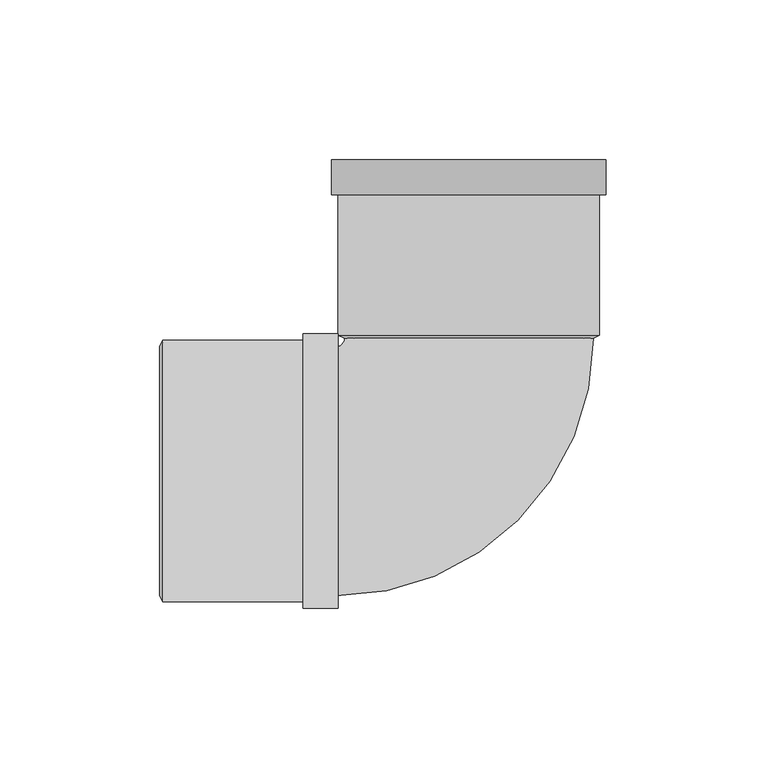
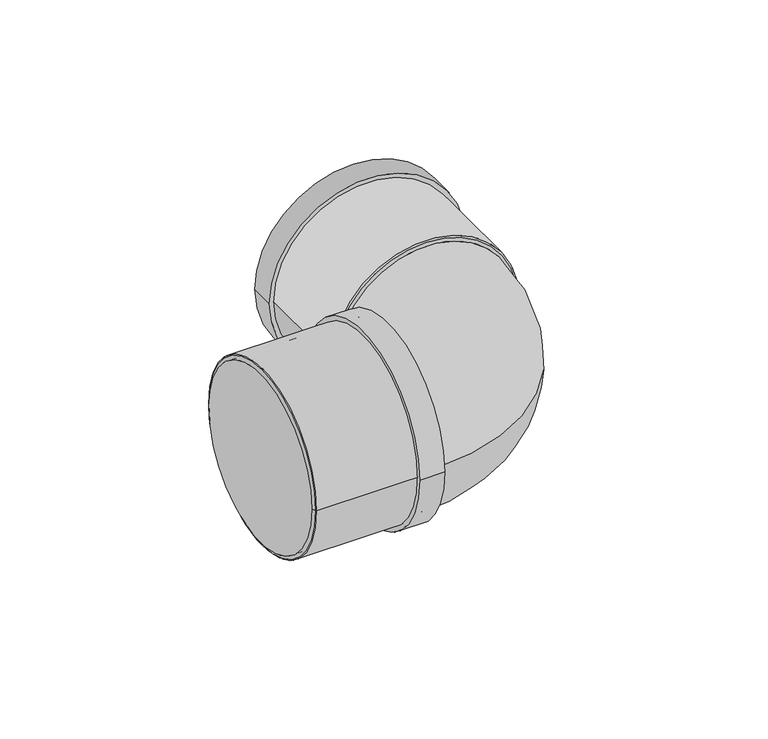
"""IFC4 building model written with IfcOpenShell, lengths in millimetres: pipe fitting geometry, Superdrain SK Bend_Composite 2x45 : Superdrain SK Bend_Composite 2x45."""

from ifc_helpers import new_model, si_unit, point, frame, origin, origin_2d, place, context, project, spatial, polyline, circle_curve, ellipse_curve, trimmed, segment, composite_curve, outline, extrude, source, transform, mapped, element, save
from ifc_brep_helpers import plane_surface, revolved_surface, advanced_brep


def pipe_fitting_26640547(model_context):
    return source(origin(), model_context, "Body", "SolidModel", [
        extrude(outline(composite_curve([segment(trimmed(circle_curve(origin_2d(), 40.95), [point((40.95, 0.0))], [point((-40.95, 0.0))], False, "CARTESIAN"), True, "CONTINUOUS"), segment(trimmed(circle_curve(origin_2d(), 40.95), [point((-40.95, 0.0))], [point((40.95, 0.0))], False, "CARTESIAN"), True, "CONTINUOUS")], self_intersect=False), holes=[composite_curve([segment(trimmed(circle_curve(origin_2d(), 39.0), [point((39.0, 0.0))], [point((-39.0, 0.0))], True, "CARTESIAN"), True, "CONTINUOUS"), segment(trimmed(circle_curve(origin_2d(), 39.0), [point((-39.0, 0.0))], [point((39.0, 0.0))], True, "CARTESIAN"), True, "CONTINUOUS")], self_intersect=False)]), frame((-96.0, 0.0, 0.0), z_axis=(1.0, 0.0, 0.0), x_axis=(0.0, 1.0, 0.0)), (0.0, 0.0, 1.0), 55.0),
        extrude(outline(composite_curve([segment(trimmed(circle_curve(origin_2d(), 42.9975), [point((42.9975, 0.0))], [point((-42.9975, 0.0))], False, "CARTESIAN"), True, "CONTINUOUS"), segment(trimmed(circle_curve(origin_2d(), 42.9975), [point((-42.9975, 0.0))], [point((42.9975, 0.0))], False, "CARTESIAN"), True, "CONTINUOUS")], self_intersect=False), holes=[composite_curve([segment(trimmed(circle_curve(origin_2d(), 39.0), [point((39.0, 0.0))], [point((-39.0, 0.0))], True, "CARTESIAN"), True, "CONTINUOUS"), segment(trimmed(circle_curve(origin_2d(), 39.0), [point((-39.0, 0.0))], [point((39.0, 0.0))], True, "CARTESIAN"), True, "CONTINUOUS")], self_intersect=False)]), frame((-52.0, 0.0, 0.0), z_axis=(1.0, 0.0, 0.0), x_axis=(0.0, 1.0, 0.0)), (0.0, 0.0, 1.0), 11.0),
        advanced_brep(
        [(-97.0, 39.0, 0.0), (-97.0, -39.0, 0.0), (-96.0, 40.95, 0.0), (-96.0, -40.95, 0.0)],
        [
            (0, 1, circle_curve(frame((-97.0, 0.0, 0.0), z_axis=(-1.0, 0.0, 0.0), x_axis=(0.0, 1.0000000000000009, 0.0)), 39.0)),
            (1, 0, circle_curve(frame((-97.0, 0.0, 0.0), z_axis=(-1.0, 0.0, 0.0), x_axis=(0.0, -1.0000000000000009, 0.0)), 39.0)),
            (2, 3, circle_curve(frame((-96.0, 0.0, 0.0), z_axis=(1.0, 0.0, 0.0), x_axis=(0.0, -1.0000000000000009, 0.0)), 40.95)),
            (3, 2, circle_curve(frame((-96.0, 0.0, 0.0), z_axis=(1.0, 0.0, 0.0), x_axis=(0.0, 1.0000000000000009, 0.0)), 40.95)),
            (3, 1),
            (0, 2),
        ],
        [
            plane_surface(frame((-97.0, 0.0, 0.0), z_axis=(-1.0, 0.0, 0.0), x_axis=(0.0, 0.0, -1.0))),
            plane_surface(frame((-96.0, 0.0, 0.0), z_axis=(1.0, 0.0, 0.0), x_axis=(0.0, 0.0, -1.0))),
            revolved_surface(polyline([(-97.0, 38.99999999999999, 0.0), (-96.0, 40.95, 0.0)]), (-117.0, 0.0, 0.0), (1.0000000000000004, 0.0, 0.0)),
            revolved_surface(polyline([(-97.0, -38.99999999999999, 0.0), (-96.0, -40.95, 0.0)]), (-117.0, 0.0, 0.0), (1.0000000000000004, 0.0, 0.0)),
        ],
        [
            (0, [[1, 2]]),
            (1, [[3, 4]]),
            (2, [[-4, 5, -1, 6]]),
            (3, [[-3, -6, -2, -5]]),
        ],
    ),
        advanced_brep(
        [(39.0, 41.6, 0.0), (-39.0, 41.6, 0.0), (-41.6, -39.0, 0.0), (-41.6, 39.0, 0.0)],
        [
            (0, 1, circle_curve(frame((0.0, 41.6, 0.0), z_axis=(0.0, 1.0, 0.0), x_axis=(-1.0, 0.0, 0.0)), 39.0)),
            (1, 0, circle_curve(frame((0.0, 41.6, 0.0), z_axis=(0.0, 1.0, 0.0), x_axis=(-1.0, 0.0, 0.0)), 39.0)),
            (2, 3, circle_curve(frame((-41.6, 0.0, 0.0), z_axis=(-1.0, 0.0, 0.0), x_axis=(0.0, 1.0, 0.0)), 39.0)),
            (3, 2, circle_curve(frame((-41.6, 0.0, 0.0), z_axis=(-1.0, 0.0, 0.0), x_axis=(0.0, 1.0, 0.0)), 39.0)),
            (3, 1, circle_curve(frame((-41.6, 41.6, 0.0), z_axis=(0.0, 0.0, 1.0), x_axis=(1.0, 0.0, 0.0)), 2.6)),
            (0, 2, circle_curve(frame((-41.6, 41.6, 0.0), z_axis=(0.0, 0.0, -1.0), x_axis=(1.0, 0.0, 0.0)), 80.6)),
        ],
        [
            plane_surface(frame((0.0, 41.6, 0.0), z_axis=(0.0, 1.0, 0.0), x_axis=(0.0, 0.0, -1.0))),
            plane_surface(frame((-41.6, 0.0, 0.0), z_axis=(-1.0, 0.0, 0.0), x_axis=(0.0, 0.0, -1.0))),
            revolved_surface(trimmed(ellipse_curve(frame((0.0, 41.6, 0.0), z_axis=(0.0, -1.0, 0.0), x_axis=(-1.0, 0.0, 0.0)), 39.0, 39.0), [point((-39.0, 41.6, 0.0))], [point((39.0, 41.6, 0.0))], True, "CARTESIAN"), (-41.6, 41.6, 0.0), (0.0, 0.0, 1.0)),
            revolved_surface(trimmed(ellipse_curve(frame((0.0, 41.6, 0.0), z_axis=(0.0, -1.0, 0.0), x_axis=(-1.0, 0.0, 0.0)), 39.0, 39.0), [point((39.0, 41.6, 0.0))], [point((-39.0, 41.6, 0.0))], True, "CARTESIAN"), (-41.6, 41.6, 0.0), (0.0, 0.0, 1.0)),
        ],
        [
            (0, [[1, 2]]),
            (1, [[3, 4]]),
            (2, [[-4, 5, -1, 6]]),
            (3, [[-3, -6, -2, -5]]),
        ],
    ),
        extrude(outline(composite_curve([segment(trimmed(circle_curve(origin_2d(), 40.95), [point((0.0, 40.95))], [point((0.0, -40.95))], False, "CARTESIAN"), True, "CONTINUOUS"), segment(trimmed(circle_curve(origin_2d(), 40.95), [point((0.0, -40.95))], [point((0.0, 40.95))], False, "CARTESIAN"), True, "CONTINUOUS")], self_intersect=False), holes=[composite_curve([segment(trimmed(circle_curve(origin_2d(), 39.0), [point((0.0, 39.0))], [point((0.0, -39.0))], True, "CARTESIAN"), True, "CONTINUOUS"), segment(trimmed(circle_curve(origin_2d(), 39.0), [point((0.0, -39.0))], [point((0.0, 39.0))], True, "CARTESIAN"), True, "CONTINUOUS")], self_intersect=False)]), frame((0.0, 42.6, 0.0), z_axis=(0.0, 1.0, 0.0), x_axis=(0.0, 0.0, 1.0)), (0.0, 0.0, 1.0), 55.0),
        extrude(outline(composite_curve([segment(trimmed(circle_curve(origin_2d(), 42.9975), [point((0.0, -42.9975))], [point((0.0, 42.9975))], False, "CARTESIAN"), True, "CONTINUOUS"), segment(trimmed(circle_curve(origin_2d(), 42.9975), [point((0.0, 42.9975))], [point((0.0, -42.9975))], False, "CARTESIAN"), True, "CONTINUOUS")], self_intersect=False), holes=[composite_curve([segment(trimmed(circle_curve(origin_2d(), 39.0), [point((0.0, -39.0))], [point((0.0, 39.0))], True, "CARTESIAN"), True, "CONTINUOUS"), segment(trimmed(circle_curve(origin_2d(), 39.0), [point((0.0, 39.0))], [point((0.0, -39.0))], True, "CARTESIAN"), True, "CONTINUOUS")], self_intersect=False)]), frame((0.0, 86.6, 0.0), z_axis=(0.0, 1.0, 0.0), x_axis=(0.0, 0.0, 1.0)), (0.0, 0.0, 1.0), 11.0),
        advanced_brep(
        [(40.95, 42.6, 0.0), (-40.95, 42.6, 0.0), (39.0, 41.6, 0.0), (-39.0, 41.6, 0.0)],
        [
            (0, 1, circle_curve(frame((0.0, 42.6, 0.0), z_axis=(0.0, 1.0, 0.0), x_axis=(1.0, 0.0, 0.0)), 40.95)),
            (1, 0, circle_curve(frame((0.0, 42.6, 0.0), z_axis=(0.0, 1.0, 0.0), x_axis=(-1.0, 0.0, 0.0)), 40.95)),
            (2, 3, circle_curve(frame((0.0, 41.6, 0.0), z_axis=(0.0, -1.0, 0.0), x_axis=(-1.0, 0.0, 0.0)), 39.0)),
            (3, 2, circle_curve(frame((0.0, 41.6, 0.0), z_axis=(0.0, -1.0, 0.0), x_axis=(1.0, 0.0, 0.0)), 39.0)),
            (3, 1),
            (0, 2),
        ],
        [
            plane_surface(frame((0.0, 42.6, 0.0), z_axis=(0.0, 1.0, 0.0), x_axis=(0.0, 0.0, -1.0))),
            plane_surface(frame((0.0, 41.6, 0.0), z_axis=(0.0, -1.0, 0.0), x_axis=(0.0, 0.0, -1.0))),
            revolved_surface(polyline([(-39.0, 41.6, 0.0), (-40.95, 42.6, 0.0)]), (0.0, 21.6, 0.0), (0.0, 1.0, 0.0)),
            revolved_surface(polyline([(39.0, 41.6, 0.0), (40.95, 42.6, 0.0)]), (0.0, 21.6, 0.0), (0.0, 1.0, 0.0)),
        ],
        [
            (0, [[1, 2]]),
            (1, [[3, 4]]),
            (2, [[-4, 5, -1, 6]]),
            (3, [[-3, -6, -2, -5]]),
        ],
    ),
        extrude(outline(composite_curve([segment(trimmed(circle_curve(origin_2d(), 39.0), [point((-39.0, 0.0))], [point((39.0, 0.0))], False, "CARTESIAN"), True, "CONTINUOUS"), segment(trimmed(circle_curve(origin_2d(), 39.0), [point((39.0, 0.0))], [point((-39.0, 0.0))], False, "CARTESIAN"), True, "CONTINUOUS")], self_intersect=False)), frame((-96.0, 0.0, 0.0), z_axis=(1.0, 0.0, 0.0), x_axis=(0.0, 1.0, 0.0)), (0.0, 0.0, 1.0), 54.4),
    ])


if __name__ == "__main__":
    model = new_model("IFC4")
    model_context = context("Model", 3, world=origin())
    ifc_project = project(units=[si_unit("LENGTHUNIT", "METRE", prefix="MILLI")], contexts=[model_context])
    site = spatial("IfcSite", under=ifc_project)
    building = spatial("IfcBuilding", under=site)
    placement = place(None, origin())
    pipe_fitting_shape = pipe_fitting_26640547(model_context)
    element("IfcPipeFitting", 1, ObjectType="Superdrain SK Bend_Composite 2x45 : Superdrain SK Bend_Composite 2x45", at=placement, inside=building, context=model_context, shape_type="MappedRepresentation", body=[
        mapped(pipe_fitting_shape, transform((0.0, 0.0, 0.0), x_axis=(1.0, 0.0, 0.0), y_axis=(0.0, 1.0, 0.0), z_axis=(0.0, 0.0, 1.0))),
    ])
    save(model, "model.ifc")
